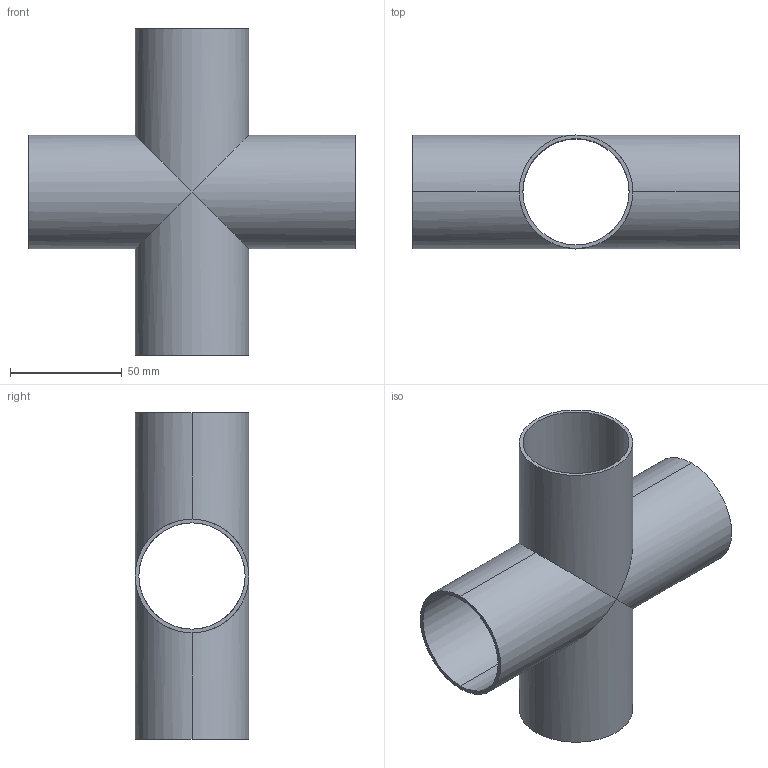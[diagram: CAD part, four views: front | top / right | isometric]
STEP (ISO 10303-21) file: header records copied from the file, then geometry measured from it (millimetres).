
FILE_DESCRIPTION (( 'STEP AP214' ), '1' );
FILE_NAME ('TE9WWWW6L2.0-...STEP', '2016-05-22T04:56:21', ( 'eran' ), ( '' ), 'SwSTEP 2.0', 'SolidWorks 2016', '' );
FILE_SCHEMA (( 'AUTOMOTIVE_DESIGN' ));
Length unit declared in the file: millimetre
Products named in the file (1): TE9WWWW6L2.0-..
Bounding box: 146.05 x 50.8 x 146.05 mm (x, y, z)
Volume: 58504.7 mm3; surface area: 71877 mm2
Topology: 1 solids, 1 shells, 20 faces, 48 edges, 28 vertices
Faces by surface type: cylinder 16, plane 4
Entity records: 618 total; most frequent: CARTESIAN_POINT 145, ORIENTED_EDGE 96, DIRECTION 90, EDGE_CURVE 48, AXIS2_PLACEMENT_3D 37, VERTEX_POINT 28, EDGE_LOOP 24, ADVANCED_FACE 20
